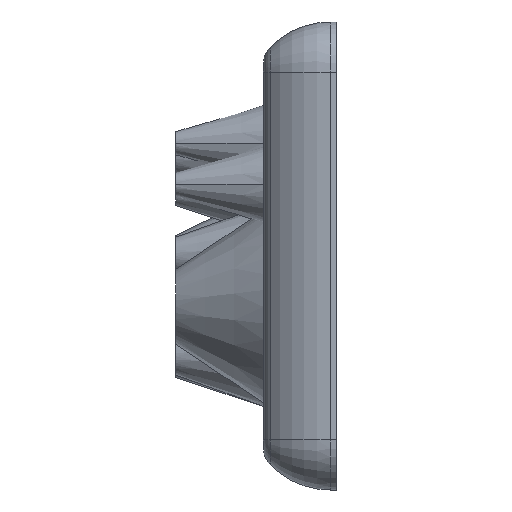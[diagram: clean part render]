
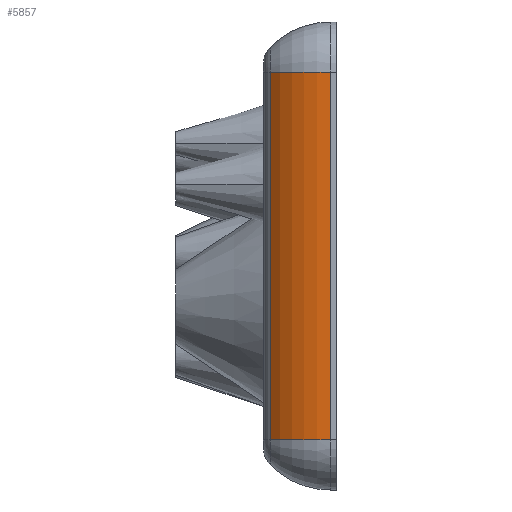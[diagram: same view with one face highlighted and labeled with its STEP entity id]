
A CAD part, left-side view. The second image highlights one B-rep face of the part: STEP entity #5857.
In plain terms, the highlighted cylindrical face has radius 10 mm (diameter 20 mm), a partial arc.
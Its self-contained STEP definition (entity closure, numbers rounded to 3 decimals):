
#475 = VERTEX_POINT ( 'NONE', #1743 ) ;
#824 = CIRCLE ( 'NONE', #7937, 10. ) ;
#1696 = DIRECTION ( 'NONE',  ( 0., 0., -1. ) ) ;
#1743 = CARTESIAN_POINT ( 'NONE',  ( 17.131, 92.191, 108.516 ) ) ;
#1926 = CARTESIAN_POINT ( 'NONE',  ( 24.129, 85.048, 64.516 ) ) ;
#1937 = DIRECTION ( 'NONE',  ( 0., 0., -1. ) ) ;
#2052 = CARTESIAN_POINT ( 'NONE',  ( 17.131, 92.191, 64.516 ) ) ;
#2320 = DIRECTION ( 'NONE',  ( 0., 0., 1. ) ) ;
#2864 = CARTESIAN_POINT ( 'NONE',  ( 24.129, 85.048, 108.516 ) ) ;
#3021 = DIRECTION ( 'NONE',  ( 1., 0., 0. ) ) ;
#3111 = ORIENTED_EDGE ( 'NONE', *, *, #4802, .T. ) ;
#3387 = EDGE_CURVE ( 'NONE', #8424, #8001, #5693, .T. ) ;
#3741 = ORIENTED_EDGE ( 'NONE', *, *, #6473, .T. ) ;
#4278 = EDGE_CURVE ( 'NONE', #475, #8424, #7828, .T. ) ;
#4411 = CARTESIAN_POINT ( 'NONE',  ( 14.129, 85.048, 108.516 ) ) ;
#4594 = CYLINDRICAL_SURFACE ( 'NONE', #5609, 10. ) ;
#4802 = EDGE_CURVE ( 'NONE', #475, #8300, #8991, .T. ) ;
#5380 = DIRECTION ( 'NONE',  ( 1., 0., 0. ) ) ;
#5609 = AXIS2_PLACEMENT_3D ( 'NONE', #5791, #6225, #6393 ) ;
#5693 = LINE ( 'NONE', #4411, #7617 ) ;
#5791 = CARTESIAN_POINT ( 'NONE',  ( 24.129, 85.048, 64.516 ) ) ;
#5857 = ADVANCED_FACE ( 'NONE', ( #8045 ), #4594, .T. ) ;
#5859 = CARTESIAN_POINT ( 'NONE',  ( 14.129, 85.048, 108.516 ) ) ;
#6105 = AXIS2_PLACEMENT_3D ( 'NONE', #2864, #2320, #5380 ) ;
#6225 = DIRECTION ( 'NONE',  ( 0., 0., 1. ) ) ;
#6387 = ORIENTED_EDGE ( 'NONE', *, *, #3387, .F. ) ;
#6393 = DIRECTION ( 'NONE',  ( 1., 0., 0. ) ) ;
#6473 = EDGE_CURVE ( 'NONE', #8300, #8001, #824, .T. ) ;
#6656 = DIRECTION ( 'NONE',  ( 0., 0., 1. ) ) ;
#6683 = VECTOR ( 'NONE', #1937, 1000. ) ;
#6955 = EDGE_LOOP ( 'NONE', ( #3741, #6387, #8166, #3111 ) ) ;
#6956 = CARTESIAN_POINT ( 'NONE',  ( 17.131, 92.191, 108.516 ) ) ;
#7617 = VECTOR ( 'NONE', #1696, 1000. ) ;
#7828 = CIRCLE ( 'NONE', #6105, 10. ) ;
#7937 = AXIS2_PLACEMENT_3D ( 'NONE', #1926, #6656, #3021 ) ;
#8001 = VERTEX_POINT ( 'NONE', #8708 ) ;
#8045 = FACE_OUTER_BOUND ( 'NONE', #6955, .T. ) ;
#8166 = ORIENTED_EDGE ( 'NONE', *, *, #4278, .F. ) ;
#8300 = VERTEX_POINT ( 'NONE', #2052 ) ;
#8424 = VERTEX_POINT ( 'NONE', #5859 ) ;
#8708 = CARTESIAN_POINT ( 'NONE',  ( 14.129, 85.048, 64.516 ) ) ;
#8991 = LINE ( 'NONE', #6956, #6683 ) ;
